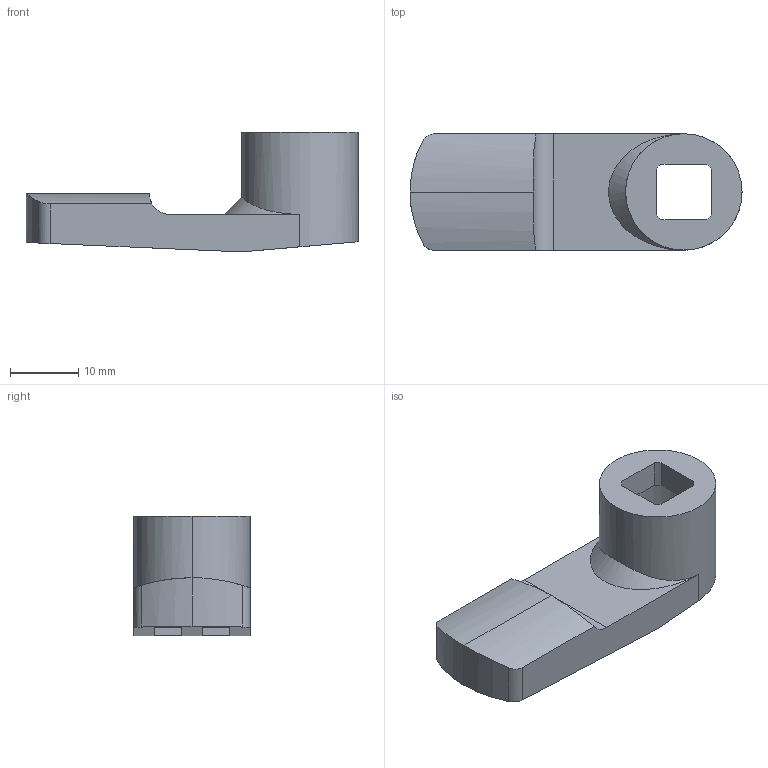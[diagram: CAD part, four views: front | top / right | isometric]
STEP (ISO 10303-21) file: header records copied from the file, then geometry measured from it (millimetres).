
FILE_DESCRIPTION (( 'STEP AP214' ), '1' );
FILE_NAME ('JP-10027.STEP', '2016-08-17T10:02:50', ( 'RST-Dolba' ), ( '' ), 'SwSTEP 2.0', 'SolidWorks 2015', '' );
FILE_SCHEMA (( 'AUTOMOTIVE_DESIGN' ));
Length unit declared in the file: millimetre
Products named in the file (1): JP-10027
Bounding box: 48.5 x 17 x 17.5 mm (x, y, z)
Volume: 4466.4 mm3; surface area: 3775.1 mm2
Topology: 1 solids, 1 shells, 49 faces, 129 edges, 85 vertices
Faces by surface type: plane 25, cylinder 23, bspline 1
Entity records: 1722 total; most frequent: CARTESIAN_POINT 484, ORIENTED_EDGE 258, DIRECTION 240, EDGE_CURVE 129, VERTEX_POINT 85, LINE 82, VECTOR 82, AXIS2_PLACEMENT_3D 79
